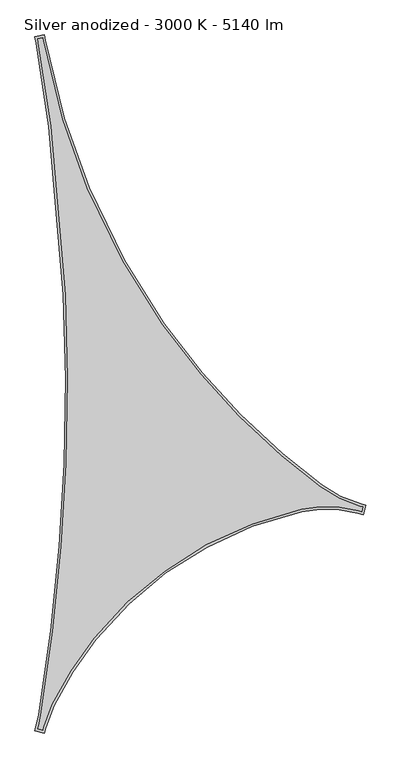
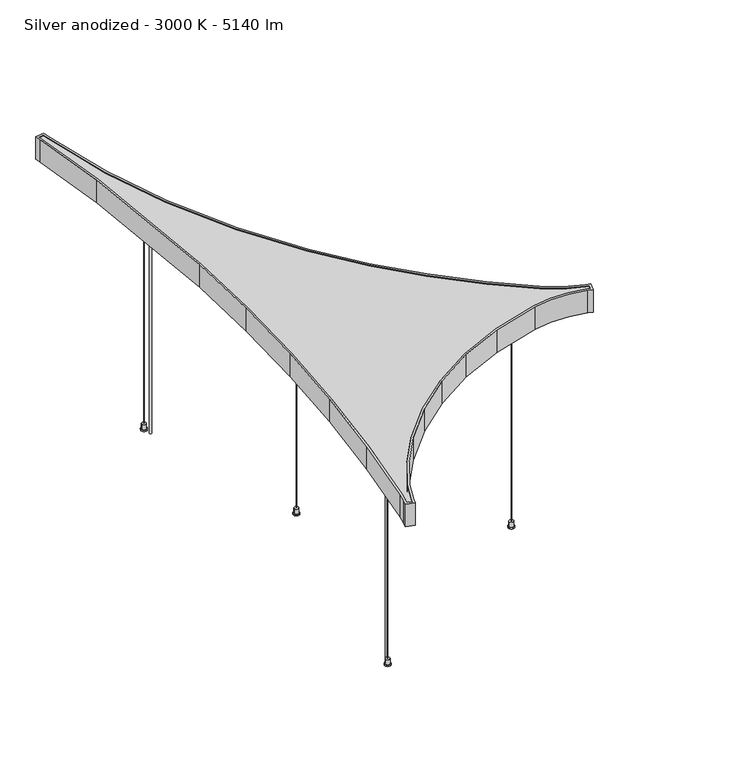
"""IFC4 building model written with IfcOpenShell, lengths in millimetres: light fixture geometry, KLUŚ - MIFOR - MI-SAIL-AR : Silver anodized - 3000 K - 5140 lm."""

from ifc_helpers import new_model, si_unit, point, frame, frame_2d, origin, origin_with_axes, origin_2d, place, context, project, spatial, polyline, circle_curve, trimmed, segment, composite_curve, outline, extrude, source, transform, mapped, element, save


def silver_anodized_3000_k_5140_lm_213de655(model_context):
    return source(origin(), model_context, "Body", "SweptSolid", [
        extrude(outline(composite_curve([segment(trimmed(circle_curve(frame_2d((-116.6391361, 406.611228)), 1.75), [point((-114.8891361, 406.611228))], [point((-118.3891361, 406.611228))], False, "CARTESIAN"), True, "CONTINUOUS"), segment(trimmed(circle_curve(frame_2d((-116.6391361, 406.611228)), 1.75), [point((-118.3891361, 406.611228))], [point((-114.8891361, 406.611228))], False, "CARTESIAN"), True, "CONTINUOUS")], self_intersect=False)), frame((0.0, 0.0, 500.5), z_axis=(0.0, 0.0, 1.0), x_axis=(1.0, 0.0, 0.0)), (0.0, 0.0, 1.0), 3.5),
        extrude(outline(composite_curve([segment(trimmed(circle_curve(frame_2d((-104.4303678, -544.9389265)), 1.75), [point((-102.6803678, -544.9389265))], [point((-106.1803678, -544.9389265))], False, "CARTESIAN"), True, "CONTINUOUS"), segment(trimmed(circle_curve(frame_2d((-104.4303678, -544.9389265)), 1.75), [point((-106.1803678, -544.9389265))], [point((-102.6803678, -544.9389265))], False, "CARTESIAN"), True, "CONTINUOUS")], self_intersect=False)), frame((0.0, 0.0, 500.5), z_axis=(0.0, 0.0, 1.0), x_axis=(1.0, 0.0, 0.0)), (0.0, 0.0, 1.0), 3.5),
        extrude(outline(composite_curve([segment(trimmed(circle_curve(frame_2d((348.7148662, -254.364743)), 1.75), [point((350.4648662, -254.364743))], [point((346.9648662, -254.364743))], False, "CARTESIAN"), True, "CONTINUOUS"), segment(trimmed(circle_curve(frame_2d((348.7148662, -254.364743)), 1.75), [point((346.9648662, -254.364743))], [point((350.4648662, -254.364743))], False, "CARTESIAN"), True, "CONTINUOUS")], self_intersect=False)), frame((0.0, 0.0, 500.5), z_axis=(0.0, 0.0, 1.0), x_axis=(1.0, 0.0, 0.0)), (0.0, 0.0, 1.0), 3.5),
        extrude(outline(composite_curve([segment(trimmed(circle_curve(origin_2d(), 1.75), [point((1.75, 0.0))], [point((-1.75, 0.0))], False, "CARTESIAN"), True, "CONTINUOUS"), segment(trimmed(circle_curve(origin_2d(), 1.75), [point((-1.75, 0.0))], [point((1.75, 0.0))], False, "CARTESIAN"), True, "CONTINUOUS")], self_intersect=False)), frame((0.0, 0.0, 500.5), z_axis=(0.0, 0.0, 1.0), x_axis=(1.0, 0.0, 0.0)), (0.0, 0.0, 1.0), 3.5),
        extrude(outline(composite_curve([segment(trimmed(circle_curve(frame_2d((-116.6391361, 406.611228)), 5.0), [point((-111.6391361, 406.611228))], [point((-121.6391361, 406.611228))], False, "CARTESIAN"), True, "CONTINUOUS"), segment(trimmed(circle_curve(frame_2d((-116.6391361, 406.611228)), 5.0), [point((-121.6391361, 406.611228))], [point((-111.6391361, 406.611228))], False, "CARTESIAN"), True, "CONTINUOUS")], self_intersect=False)), frame((0.0, 0.0, 3.0), z_axis=(0.0, 0.0, 1.0), x_axis=(1.0, 0.0, 0.0)), (0.0, 0.0, 1.0), 12.0),
        extrude(outline(composite_curve([segment(trimmed(circle_curve(frame_2d((348.7148662, -254.364743)), 5.0), [point((353.7148662, -254.364743))], [point((343.7148662, -254.364743))], False, "CARTESIAN"), True, "CONTINUOUS"), segment(trimmed(circle_curve(frame_2d((348.7148662, -254.364743)), 5.0), [point((343.7148662, -254.364743))], [point((353.7148662, -254.364743))], False, "CARTESIAN"), True, "CONTINUOUS")], self_intersect=False)), frame((0.0, 0.0, 3.0), z_axis=(0.0, 0.0, 1.0), x_axis=(1.0, 0.0, 0.0)), (0.0, 0.0, 1.0), 12.0),
        extrude(outline(composite_curve([segment(trimmed(circle_curve(frame_2d((-104.4303678, -544.9389265)), 5.0), [point((-99.4303678, -544.9389265))], [point((-109.4303678, -544.9389265))], False, "CARTESIAN"), True, "CONTINUOUS"), segment(trimmed(circle_curve(frame_2d((-104.4303678, -544.9389265)), 5.0), [point((-109.4303678, -544.9389265))], [point((-99.4303678, -544.9389265))], False, "CARTESIAN"), True, "CONTINUOUS")], self_intersect=False)), frame((0.0, 0.0, 3.0), z_axis=(0.0, 0.0, 1.0), x_axis=(1.0, 0.0, 0.0)), (0.0, 0.0, 1.0), 12.0),
        extrude(outline(composite_curve([segment(trimmed(circle_curve(origin_2d(), 5.0), [point((5.0, 0.0))], [point((-5.0, 0.0))], False, "CARTESIAN"), True, "CONTINUOUS"), segment(trimmed(circle_curve(origin_2d(), 5.0), [point((-5.0, 0.0))], [point((5.0, 0.0))], False, "CARTESIAN"), True, "CONTINUOUS")], self_intersect=False)), frame((0.0, 0.0, 3.0), z_axis=(0.0, 0.0, 1.0), x_axis=(1.0, 0.0, 0.0)), (0.0, 0.0, 1.0), 12.0),
        extrude(outline(composite_curve([segment(trimmed(circle_curve(frame_2d((-97.4497006, -528.564853)), 2.5), [point((-94.9497006, -528.564853))], [point((-99.9497006, -528.564853))], False, "CARTESIAN"), True, "CONTINUOUS"), segment(trimmed(circle_curve(frame_2d((-97.4497006, -528.564853)), 2.5), [point((-99.9497006, -528.564853))], [point((-94.9497006, -528.564853))], False, "CARTESIAN"), True, "CONTINUOUS")], self_intersect=False)), origin_with_axes(), (0.0, 0.0, 1.0), 516.0),
        extrude(outline(composite_curve([segment(trimmed(circle_curve(frame_2d((-111.3191471, 389.62483)), 2.5), [point((-108.8191471, 389.62483))], [point((-113.8191471, 389.62483))], False, "CARTESIAN"), True, "CONTINUOUS"), segment(trimmed(circle_curve(frame_2d((-111.3191471, 389.62483)), 2.5), [point((-113.8191471, 389.62483))], [point((-108.8191471, 389.62483))], False, "CARTESIAN"), True, "CONTINUOUS")], self_intersect=False)), origin_with_axes(), (0.0, 0.0, 1.0), 516.0),
        extrude(outline(composite_curve([segment(polyline([(-184.4935524, -762.1423197), (-182.8491772, -755.8537563)]), True, "CONTINUOUS"), segment(trimmed(circle_curve(frame_2d((-428.1031511, -691.7231218)), 253.5), [point((-182.8491772, -755.8537563))], [point((-178.0011557, -733.0902812))], True, "CARTESIAN"), True, "CONTINUOUS"), segment(trimmed(circle_curve(frame_2d((-4411.8137097, -32.8127858)), 4291.3351435), [point((-178.0011557, -733.0902812))], [point((-152.2801512, -554.2829932))], True, "CARTESIAN"), True, "CONTINUOUS"), segment(trimmed(circle_curve(frame_2d((-4411.8137093, -32.8127858)), 4291.3351431), [point((-152.2801512, -554.2829932))], [point((-134.0806189, -374.217117))], True, "CARTESIAN"), True, "CONTINUOUS"), segment(trimmed(circle_curve(frame_2d((-4411.8137093, -32.8127858)), 4291.3351431), [point((-134.0806189, -374.217117))], [point((-123.6645303, -198.142542))], True, "CARTESIAN"), True, "CONTINUOUS"), segment(trimmed(circle_curve(frame_2d((-4411.8137232, -32.8127853)), 4291.3351569), [point((-123.6645303, -198.142542))], [point((-120.5081438, -16.8800051))], True, "CARTESIAN"), True, "CONTINUOUS"), segment(trimmed(circle_curve(frame_2d((-4411.8137087, -32.8127858)), 4291.3351425), [point((-120.5081438, -16.8800051))], [point((-124.8746621, 161.3801995))], True, "CARTESIAN"), True, "CONTINUOUS"), segment(trimmed(circle_curve(frame_2d((-4411.8137103, -32.8127862)), 4291.3351441), [point((-124.8746621, 161.3801995))], [point((-156.1805007, 519.5849909))], True, "CARTESIAN"), True, "CONTINUOUS"), segment(trimmed(circle_curve(frame_2d((-4411.8137097, -32.8127862)), 4291.3351435), [point((-156.1805007, 519.5849909))], [point((-183.0877662, 697.5530184))], True, "CARTESIAN"), True, "CONTINUOUS"), segment(trimmed(circle_curve(frame_2d((-924.6407128, 569.4754552)), 752.5321487), [point((-183.0877662, 697.5530184))], [point((-184.6706799, 706.4023889))], True, "CARTESIAN"), True, "CONTINUOUS"), segment(polyline([(-184.6706799, 706.4023889), (-174.3639285, 708.2869528), (-173.1948028, 701.8929599)]), True, "CONTINUOUS"), segment(trimmed(circle_curve(frame_2d((1326.6594981, 976.137599)), 1524.7206453), [point((-173.1948028, 701.8929599))], [point((-132.844397, 534.9784142))], True, "CARTESIAN"), True, "CONTINUOUS"), segment(trimmed(circle_curve(frame_2d((1326.6594981, 976.137599)), 1524.7206453), [point((-132.844397, 534.9784142))], [point((-79.8387277, 387.4646959))], True, "CARTESIAN"), True, "CONTINUOUS"), segment(trimmed(circle_curve(frame_2d((1326.6594981, 976.137599)), 1524.7206453), [point((-79.8387277, 387.4646959))], [point((-5.0180603, 233.5691331))], True, "CARTESIAN"), True, "CONTINUOUS"), segment(trimmed(circle_curve(frame_2d((1326.6594981, 976.137599)), 1524.7206453), [point((-5.0180603, 233.5691331))], [point((80.7964993, 97.1618119))], True, "CARTESIAN"), True, "CONTINUOUS"), segment(trimmed(circle_curve(frame_2d((1326.6594981, 976.137599)), 1524.7206453), [point((80.7964993, 97.1618119))], [point((161.7649876, -7.6275282))], True, "CARTESIAN"), True, "CONTINUOUS"), segment(trimmed(circle_curve(frame_2d((1326.6594981, 976.137599)), 1524.7206453), [point((161.7649876, -7.6275282))], [point((243.0822195, -96.5381803))], True, "CARTESIAN"), True, "CONTINUOUS"), segment(trimmed(circle_curve(frame_2d((1326.6594981, 976.137599)), 1524.7206453), [point((243.0822195, -96.5381803))], [point((333.6881084, -180.9193855))], True, "CARTESIAN"), True, "CONTINUOUS"), segment(trimmed(circle_curve(frame_2d((1326.6594981, 976.137599)), 1524.7206453), [point((333.6881084, -180.9193855))], [point((416.6594913, -247.2482901))], True, "CARTESIAN"), True, "CONTINUOUS"), segment(trimmed(circle_curve(frame_2d((567.9560599, -43.8481959)), 253.5), [point((416.6594913, -247.2482901))], [point((500.6645441, -288.2538053))], True, "CARTESIAN"), True, "CONTINUOUS"), segment(polyline([(500.6645441, -288.2538053), (506.9313546, -289.9792288), (504.1441321, -300.1025381), (497.8773216, -298.3771146)]), True, "CONTINUOUS"), segment(trimmed(circle_curve(frame_2d((430.5858058, -542.782724)), 253.5), [point((497.8773216, -298.3771146))], [point((375.7997648, -295.273654))], True, "CARTESIAN"), True, "CONTINUOUS"), segment(trimmed(circle_curve(frame_2d((544.5105444, -1057.4650334)), 780.6401385), [point((375.7997648, -295.273654))], [point((270.1883912, -326.6118455))], True, "CARTESIAN"), True, "CONTINUOUS"), segment(trimmed(circle_curve(frame_2d((544.5105444, -1057.4650334)), 780.6401385), [point((270.1883912, -326.6118455))], [point((173.1016977, -370.8395936))], True, "CARTESIAN"), True, "CONTINUOUS"), segment(trimmed(circle_curve(frame_2d((544.5105444, -1057.4650334)), 780.6401385), [point((173.1016977, -370.8395936))], [point((85.0882438, -426.330994))], True, "CARTESIAN"), True, "CONTINUOUS"), segment(trimmed(circle_curve(frame_2d((544.5105444, -1057.4650334)), 780.6401385), [point((85.0882438, -426.330994))], [point((6.289823, -492.0293774))], True, "CARTESIAN"), True, "CONTINUOUS"), segment(trimmed(circle_curve(frame_2d((544.5105444, -1057.4650334)), 780.6401385), [point((6.289823, -492.0293774))], [point((-64.9369921, -569.6405504))], True, "CARTESIAN"), True, "CONTINUOUS"), segment(trimmed(circle_curve(frame_2d((544.5105444, -1057.4650334)), 780.6401385), [point((-64.9369921, -569.6405504))], [point((-114.289927, -638.6799276))], True, "CARTESIAN"), True, "CONTINUOUS"), segment(trimmed(circle_curve(frame_2d((544.5105444, -1057.4650334)), 780.6401385), [point((-114.289927, -638.6799276))], [point((-154.3946953, -709.7144161))], True, "CARTESIAN"), True, "CONTINUOUS"), segment(trimmed(circle_curve(frame_2d((72.5632454, -822.6406892)), 253.5), [point((-154.3946953, -709.7144161))], [point((-172.6907286, -758.5100547))], True, "CARTESIAN"), True, "CONTINUOUS"), segment(polyline([(-172.6907286, -758.5100547), (-174.3351038, -764.7986182), (-184.4935524, -762.1423197)]), True, "CONTINUOUS")], self_intersect=False)), frame((0.0, 0.0, 516.0), z_axis=(0.0, 0.0, 1.0), x_axis=(1.0, 0.0, 0.0)), (0.0, 0.0, 1.0), 2.0),
        extrude(outline(composite_curve([segment(polyline([(-184.4935524, -762.1423197), (-182.8491772, -755.8537563)]), True, "CONTINUOUS"), segment(trimmed(circle_curve(frame_2d((-428.1031511, -691.7231218)), 253.5), [point((-182.8491772, -755.8537563))], [point((-178.0011557, -733.0902812))], True, "CARTESIAN"), True, "CONTINUOUS"), segment(trimmed(circle_curve(frame_2d((-4411.8137097, -32.8127858)), 4291.3351435), [point((-178.0011557, -733.0902812))], [point((-152.2801512, -554.2829932))], True, "CARTESIAN"), True, "CONTINUOUS"), segment(trimmed(circle_curve(frame_2d((-4411.8137093, -32.8127858)), 4291.3351431), [point((-152.2801512, -554.2829932))], [point((-134.0806189, -374.217117))], True, "CARTESIAN"), True, "CONTINUOUS"), segment(trimmed(circle_curve(frame_2d((-4411.8137093, -32.8127858)), 4291.3351431), [point((-134.0806189, -374.217117))], [point((-123.6645303, -198.142542))], True, "CARTESIAN"), True, "CONTINUOUS"), segment(trimmed(circle_curve(frame_2d((-4411.8137232, -32.8127853)), 4291.3351569), [point((-123.6645303, -198.142542))], [point((-120.5081438, -16.8800051))], True, "CARTESIAN"), True, "CONTINUOUS"), segment(trimmed(circle_curve(frame_2d((-4411.8137087, -32.8127858)), 4291.3351425), [point((-120.5081438, -16.8800051))], [point((-124.8746621, 161.3801995))], True, "CARTESIAN"), True, "CONTINUOUS"), segment(trimmed(circle_curve(frame_2d((-4411.8137103, -32.8127862)), 4291.3351441), [point((-124.8746621, 161.3801995))], [point((-156.1805007, 519.5849909))], True, "CARTESIAN"), True, "CONTINUOUS"), segment(trimmed(circle_curve(frame_2d((-4411.8137097, -32.8127862)), 4291.3351435), [point((-156.1805007, 519.5849909))], [point((-183.0877662, 697.5530184))], True, "CARTESIAN"), True, "CONTINUOUS"), segment(trimmed(circle_curve(frame_2d((-924.6407128, 569.4754552)), 752.5321487), [point((-183.0877662, 697.5530184))], [point((-184.6706799, 706.4023889))], True, "CARTESIAN"), True, "CONTINUOUS"), segment(polyline([(-184.6706799, 706.4023889), (-174.3639285, 708.2869528), (-173.1948028, 701.8929599)]), True, "CONTINUOUS"), segment(trimmed(circle_curve(frame_2d((1326.6594981, 976.137599)), 1524.7206453), [point((-173.1948028, 701.8929599))], [point((-132.844397, 534.9784142))], True, "CARTESIAN"), True, "CONTINUOUS"), segment(trimmed(circle_curve(frame_2d((1326.6594981, 976.137599)), 1524.7206453), [point((-132.844397, 534.9784142))], [point((-79.8387277, 387.4646959))], True, "CARTESIAN"), True, "CONTINUOUS"), segment(trimmed(circle_curve(frame_2d((1326.6594981, 976.137599)), 1524.7206453), [point((-79.8387277, 387.4646959))], [point((-5.0180603, 233.5691331))], True, "CARTESIAN"), True, "CONTINUOUS"), segment(trimmed(circle_curve(frame_2d((1326.6594981, 976.137599)), 1524.7206453), [point((-5.0180603, 233.5691331))], [point((80.7964993, 97.1618119))], True, "CARTESIAN"), True, "CONTINUOUS"), segment(trimmed(circle_curve(frame_2d((1326.6594981, 976.137599)), 1524.7206453), [point((80.7964993, 97.1618119))], [point((161.7649876, -7.6275282))], True, "CARTESIAN"), True, "CONTINUOUS"), segment(trimmed(circle_curve(frame_2d((1326.6594981, 976.137599)), 1524.7206453), [point((161.7649876, -7.6275282))], [point((243.0822195, -96.5381803))], True, "CARTESIAN"), True, "CONTINUOUS"), segment(trimmed(circle_curve(frame_2d((1326.6594981, 976.137599)), 1524.7206453), [point((243.0822195, -96.5381803))], [point((333.6881084, -180.9193855))], True, "CARTESIAN"), True, "CONTINUOUS"), segment(trimmed(circle_curve(frame_2d((1326.6594981, 976.137599)), 1524.7206453), [point((333.6881084, -180.9193855))], [point((416.6594913, -247.2482901))], True, "CARTESIAN"), True, "CONTINUOUS"), segment(trimmed(circle_curve(frame_2d((567.9560599, -43.8481959)), 253.5), [point((416.6594913, -247.2482901))], [point((500.6645441, -288.2538053))], True, "CARTESIAN"), True, "CONTINUOUS"), segment(polyline([(500.6645441, -288.2538053), (506.9313546, -289.9792288), (504.1441321, -300.1025381), (497.8773216, -298.3771146)]), True, "CONTINUOUS"), segment(trimmed(circle_curve(frame_2d((430.5858058, -542.782724)), 253.5), [point((497.8773216, -298.3771146))], [point((375.7997648, -295.273654))], True, "CARTESIAN"), True, "CONTINUOUS"), segment(trimmed(circle_curve(frame_2d((544.5105444, -1057.4650334)), 780.6401385), [point((375.7997648, -295.273654))], [point((270.1883912, -326.6118455))], True, "CARTESIAN"), True, "CONTINUOUS"), segment(trimmed(circle_curve(frame_2d((544.5105444, -1057.4650334)), 780.6401385), [point((270.1883912, -326.6118455))], [point((173.1016977, -370.8395936))], True, "CARTESIAN"), True, "CONTINUOUS"), segment(trimmed(circle_curve(frame_2d((544.5105444, -1057.4650334)), 780.6401385), [point((173.1016977, -370.8395936))], [point((85.0882438, -426.330994))], True, "CARTESIAN"), True, "CONTINUOUS"), segment(trimmed(circle_curve(frame_2d((544.5105444, -1057.4650334)), 780.6401385), [point((85.0882438, -426.330994))], [point((6.289823, -492.0293774))], True, "CARTESIAN"), True, "CONTINUOUS"), segment(trimmed(circle_curve(frame_2d((544.5105444, -1057.4650334)), 780.6401385), [point((6.289823, -492.0293774))], [point((-64.9369921, -569.6405504))], True, "CARTESIAN"), True, "CONTINUOUS"), segment(trimmed(circle_curve(frame_2d((544.5105444, -1057.4650334)), 780.6401385), [point((-64.9369921, -569.6405504))], [point((-114.289927, -638.6799276))], True, "CARTESIAN"), True, "CONTINUOUS"), segment(trimmed(circle_curve(frame_2d((544.5105444, -1057.4650334)), 780.6401385), [point((-114.289927, -638.6799276))], [point((-154.3946953, -709.7144161))], True, "CARTESIAN"), True, "CONTINUOUS"), segment(trimmed(circle_curve(frame_2d((72.5632454, -822.6406892)), 253.5), [point((-154.3946953, -709.7144161))], [point((-172.6907286, -758.5100547))], True, "CARTESIAN"), True, "CONTINUOUS"), segment(polyline([(-172.6907286, -758.5100547), (-174.3351038, -764.7986182), (-184.4935524, -762.1423197)]), True, "CONTINUOUS")], self_intersect=False)), frame((0.0, 0.0, 551.0), z_axis=(0.0, 0.0, 1.0), x_axis=(1.0, 0.0, 0.0)), (0.0, 0.0, 1.0), 2.0),
        extrude(outline(composite_curve([segment(trimmed(circle_curve(frame_2d((1326.6594981, 976.137599)), 1519.7206453), [point((336.9443488, -177.125061))], [point((419.6436445, -243.236454))], True, "CARTESIAN"), True, "CONTINUOUS"), segment(trimmed(circle_curve(frame_2d((567.9560599, -43.8481959)), 248.5), [point((419.6436445, -243.236454))], [point((501.9917929, -283.4331819))], True, "CARTESIAN"), True, "CONTINUOUS"), segment(polyline([(501.9917929, -283.4331819), (513.0792269, -286.4858542), (507.6375067, -306.2504104), (496.5500727, -303.197738)]), True, "CONTINUOUS"), segment(trimmed(circle_curve(frame_2d((430.5858058, -542.782724)), 248.5), [point((496.5500727, -303.197738))], [point((376.8803573, -300.1554897))], True, "CARTESIAN"), True, "CONTINUOUS"), segment(trimmed(circle_curve(frame_2d((544.5105444, -1057.4650334)), 775.6401385), [point((376.8803573, -300.1554897))], [point((271.9454246, -331.2929601))], True, "CARTESIAN"), True, "CONTINUOUS"), segment(trimmed(circle_curve(frame_2d((544.5105444, -1057.4650334)), 775.6401385), [point((271.9454246, -331.2929601))], [point((175.4805713, -375.2374295))], True, "CARTESIAN"), True, "CONTINUOUS"), segment(trimmed(circle_curve(frame_2d((544.5105444, -1057.4650334)), 775.6401385), [point((175.4805713, -375.2374295))], [point((88.0308436, -430.3734075))], True, "CARTESIAN"), True, "CONTINUOUS"), segment(trimmed(circle_curve(frame_2d((544.5105444, -1057.4650334)), 775.6401385), [point((88.0308436, -430.3734075))], [point((9.7371267, -495.6509927))], True, "CARTESIAN"), True, "CONTINUOUS"), segment(trimmed(circle_curve(frame_2d((544.5105444, -1057.4650334)), 775.6401385), [point((9.7371267, -495.6509927))], [point((-61.0334807, -572.7650661))], True, "CARTESIAN"), True, "CONTINUOUS"), segment(trimmed(circle_curve(frame_2d((544.5105444, -1057.4650334)), 775.6401385), [point((-61.0334807, -572.7650661))], [point((-110.07031, -641.3622461))], True, "CARTESIAN"), True, "CONTINUOUS"), segment(trimmed(circle_curve(frame_2d((544.5105444, -1057.4650334)), 775.6401385), [point((-110.07031, -641.3622461))], [point((-149.9182074, -711.9417588))], True, "CARTESIAN"), True, "CONTINUOUS"), segment(trimmed(circle_curve(frame_2d((72.5632454, -822.6406892)), 248.5), [point((-149.9182074, -711.9417588))], [point((-167.8533721, -759.7749588))], True, "CARTESIAN"), True, "CONTINUOUS"), segment(polyline([(-167.8533721, -759.7749588), (-170.7626514, -770.9008787), (-190.595813, -765.7147722), (-187.6865337, -754.5888522)]), True, "CONTINUOUS"), segment(trimmed(circle_curve(frame_2d((-428.1031511, -691.7231218)), 248.5), [point((-187.6865337, -754.5888522))], [point((-182.9341339, -732.2743609))], True, "CARTESIAN"), True, "CONTINUOUS"), segment(trimmed(circle_curve(frame_2d((-4411.8137097, -32.8127858)), 4286.3351435), [point((-182.9341339, -732.2743609))], [point((-157.2380819, -553.6344337))], True, "CARTESIAN"), True, "CONTINUOUS"), segment(trimmed(circle_curve(frame_2d((-4411.8137093, -32.8127858)), 4286.3351431), [point((-157.2380819, -553.6344337))], [point((-139.0647707, -373.8193337))], True, "CARTESIAN"), True, "CONTINUOUS"), segment(trimmed(circle_curve(frame_2d((-4411.8137093, -32.8127858)), 4286.3351431), [point((-139.0647707, -373.8193337))], [point((-128.6551853, -197.8037461))], True, "CARTESIAN"), True, "CONTINUOUS"), segment(trimmed(circle_curve(frame_2d((-4411.8137232, -32.8127853)), 4286.3351569), [point((-128.6551853, -197.8037461))], [point((-125.5081281, -16.893508))], True, "CARTESIAN"), True, "CONTINUOUS"), segment(trimmed(circle_curve(frame_2d((-4411.8137087, -32.8127858)), 4286.3351425), [point((-125.5081281, -16.893508))], [point((-129.8694721, 161.1524388))], True, "CARTESIAN"), True, "CONTINUOUS"), segment(trimmed(circle_curve(frame_2d((-4411.8137103, -32.8127862)), 4286.3351441), [point((-129.8694721, 161.1524388))], [point((-161.1022373, 518.6588272))], True, "CARTESIAN"), True, "CONTINUOUS"), segment(trimmed(circle_curve(frame_2d((-4411.8137097, -32.8127862)), 4286.3351435), [point((-161.1022373, 518.6588272))], [point((-188.0148178, 696.702041))], True, "CARTESIAN"), True, "CONTINUOUS"), segment(trimmed(circle_curve(frame_2d((-924.6407128, 569.4754552)), 747.5321487), [point((-188.0148178, 696.702041))], [point((-190.5154432, 710.4165842))], True, "CARTESIAN"), True, "CONTINUOUS"), segment(polyline([(-190.5154432, 710.4165842), (-170.3448, 714.1047363), (-168.2763467, 702.7922874)]), True, "CONTINUOUS"), segment(trimmed(circle_curve(frame_2d((1326.6594981, 976.137599)), 1519.7206453), [point((-168.2763467, 702.7922874))], [point((-128.0582616, 536.4251028))], True, "CARTESIAN"), True, "CONTINUOUS"), segment(trimmed(circle_curve(frame_2d((1326.6594981, 976.137599)), 1519.7206453), [point((-128.0582616, 536.4251028))], [point((-75.2264132, 389.3951246))], True, "CARTESIAN"), True, "CONTINUOUS"), segment(trimmed(circle_curve(frame_2d((1326.6594981, 976.137599)), 1519.7206453), [point((-75.2264132, 389.3951246))], [point((-0.6511044, 236.0042299))], True, "CARTESIAN"), True, "CONTINUOUS"), segment(trimmed(circle_curve(frame_2d((1326.6594981, 976.137599)), 1519.7206453), [point((-0.6511044, 236.0042299))], [point((84.8820444, 100.0442277))], True, "CARTESIAN"), True, "CONTINUOUS"), segment(trimmed(circle_curve(frame_2d((1326.6594981, 976.137599)), 1519.7206453), [point((84.8820444, 100.0442277))], [point((165.5850136, -4.4014778))], True, "CARTESIAN"), True, "CONTINUOUS"), segment(trimmed(circle_curve(frame_2d((1326.6594981, 976.137599)), 1519.7206453), [point((165.5850136, -4.4014778))], [point((246.6355828, -93.0205662))], True, "CARTESIAN"), True, "CONTINUOUS"), segment(trimmed(circle_curve(frame_2d((1326.6594981, 976.137599)), 1519.7206453), [point((246.6355828, -93.0205662))], [point((336.9443488, -177.125061))], True, "CARTESIAN"), True, "CONTINUOUS")], self_intersect=False), holes=[composite_curve([segment(polyline([(-184.4935524, -762.1423197), (-174.3351038, -764.7986182), (-172.6907286, -758.5100547)]), True, "CONTINUOUS"), segment(trimmed(circle_curve(frame_2d((72.5632454, -822.6406892)), 253.5), [point((-172.6907286, -758.5100547))], [point((-154.3946953, -709.7144161))], False, "CARTESIAN"), True, "CONTINUOUS"), segment(trimmed(circle_curve(frame_2d((544.5105444, -1057.4650334)), 780.6401385), [point((-154.3946953, -709.7144161))], [point((-114.289927, -638.6799276))], False, "CARTESIAN"), True, "CONTINUOUS"), segment(trimmed(circle_curve(frame_2d((544.5105444, -1057.4650334)), 780.6401385), [point((-114.289927, -638.6799276))], [point((-64.9369921, -569.6405504))], False, "CARTESIAN"), True, "CONTINUOUS"), segment(trimmed(circle_curve(frame_2d((544.5105444, -1057.4650334)), 780.6401385), [point((-64.9369921, -569.6405504))], [point((6.289823, -492.0293774))], False, "CARTESIAN"), True, "CONTINUOUS"), segment(trimmed(circle_curve(frame_2d((544.5105444, -1057.4650334)), 780.6401385), [point((6.289823, -492.0293774))], [point((85.0882438, -426.330994))], False, "CARTESIAN"), True, "CONTINUOUS"), segment(trimmed(circle_curve(frame_2d((544.5105444, -1057.4650334)), 780.6401385), [point((85.0882438, -426.330994))], [point((173.1016977, -370.8395936))], False, "CARTESIAN"), True, "CONTINUOUS"), segment(trimmed(circle_curve(frame_2d((544.5105444, -1057.4650334)), 780.6401385), [point((173.1016977, -370.8395936))], [point((270.1883912, -326.6118455))], False, "CARTESIAN"), True, "CONTINUOUS"), segment(trimmed(circle_curve(frame_2d((544.5105444, -1057.4650334)), 780.6401385), [point((270.1883912, -326.6118455))], [point((375.7997648, -295.273654))], False, "CARTESIAN"), True, "CONTINUOUS"), segment(trimmed(circle_curve(frame_2d((430.5858058, -542.782724)), 253.5), [point((375.7997648, -295.273654))], [point((497.8773216, -298.3771146))], False, "CARTESIAN"), True, "CONTINUOUS"), segment(polyline([(497.8773216, -298.3771146), (504.1441321, -300.1025381), (506.9313546, -289.9792288), (500.6645441, -288.2538053)]), True, "CONTINUOUS"), segment(trimmed(circle_curve(frame_2d((567.9560599, -43.8481959)), 253.5), [point((500.6645441, -288.2538053))], [point((416.6594913, -247.2482901))], False, "CARTESIAN"), True, "CONTINUOUS"), segment(trimmed(circle_curve(frame_2d((1326.6594981, 976.137599)), 1524.7206453), [point((416.6594913, -247.2482901))], [point((333.6881084, -180.9193855))], False, "CARTESIAN"), True, "CONTINUOUS"), segment(trimmed(circle_curve(frame_2d((1326.6594981, 976.137599)), 1524.7206453), [point((333.6881084, -180.9193855))], [point((243.0822195, -96.5381803))], False, "CARTESIAN"), True, "CONTINUOUS"), segment(trimmed(circle_curve(frame_2d((1326.6594981, 976.137599)), 1524.7206453), [point((243.0822195, -96.5381803))], [point((161.7649876, -7.6275282))], False, "CARTESIAN"), True, "CONTINUOUS"), segment(trimmed(circle_curve(frame_2d((1326.6594981, 976.137599)), 1524.7206453), [point((161.7649876, -7.6275282))], [point((80.7964993, 97.1618119))], False, "CARTESIAN"), True, "CONTINUOUS"), segment(trimmed(circle_curve(frame_2d((1326.6594981, 976.137599)), 1524.7206453), [point((80.7964993, 97.1618119))], [point((-5.0180603, 233.5691331))], False, "CARTESIAN"), True, "CONTINUOUS"), segment(trimmed(circle_curve(frame_2d((1326.6594981, 976.137599)), 1524.7206453), [point((-5.0180603, 233.5691331))], [point((-79.8387277, 387.4646959))], False, "CARTESIAN"), True, "CONTINUOUS"), segment(trimmed(circle_curve(frame_2d((1326.6594981, 976.137599)), 1524.7206453), [point((-79.8387277, 387.4646959))], [point((-132.844397, 534.9784142))], False, "CARTESIAN"), True, "CONTINUOUS"), segment(trimmed(circle_curve(frame_2d((1326.6594981, 976.137599)), 1524.7206453), [point((-132.844397, 534.9784142))], [point((-173.1948028, 701.8929599))], False, "CARTESIAN"), True, "CONTINUOUS"), segment(polyline([(-173.1948028, 701.8929599), (-174.3639285, 708.2869528), (-184.6706799, 706.4023889)]), True, "CONTINUOUS"), segment(trimmed(circle_curve(frame_2d((-924.6407128, 569.4754552)), 752.5321487), [point((-184.6706799, 706.4023889))], [point((-183.0877662, 697.5530184))], False, "CARTESIAN"), True, "CONTINUOUS"), segment(trimmed(circle_curve(frame_2d((-4411.8137097, -32.8127862)), 4291.3351435), [point((-183.0877662, 697.5530184))], [point((-156.1805007, 519.5849909))], False, "CARTESIAN"), True, "CONTINUOUS"), segment(trimmed(circle_curve(frame_2d((-4411.8137103, -32.8127862)), 4291.3351441), [point((-156.1805007, 519.5849909))], [point((-124.8746621, 161.3801995))], False, "CARTESIAN"), True, "CONTINUOUS"), segment(trimmed(circle_curve(frame_2d((-4411.8137087, -32.8127858)), 4291.3351425), [point((-124.8746621, 161.3801995))], [point((-120.5081586, -16.8760247))], False, "CARTESIAN"), True, "CONTINUOUS"), segment(trimmed(circle_curve(frame_2d((-4411.8137232, -32.8127853)), 4291.3351569), [point((-120.5081586, -16.8760247))], [point((-123.6645303, -198.142542))], False, "CARTESIAN"), True, "CONTINUOUS"), segment(trimmed(circle_curve(frame_2d((-4411.8137093, -32.8127858)), 4291.3351431), [point((-123.6645303, -198.142542))], [point((-134.0806189, -374.217117))], False, "CARTESIAN"), True, "CONTINUOUS"), segment(trimmed(circle_curve(frame_2d((-4411.8137093, -32.8127858)), 4291.3351431), [point((-134.0806189, -374.217117))], [point((-152.2743706, -554.2357733))], False, "CARTESIAN"), True, "CONTINUOUS"), segment(trimmed(circle_curve(frame_2d((-4411.8137097, -32.8127858)), 4291.3351435), [point((-152.2743706, -554.2357733))], [point((-178.0011557, -733.0902812))], False, "CARTESIAN"), True, "CONTINUOUS"), segment(trimmed(circle_curve(frame_2d((-428.1031511, -691.7231218)), 253.5), [point((-178.0011557, -733.0902812))], [point((-182.8491772, -755.8537563))], False, "CARTESIAN"), True, "CONTINUOUS"), segment(polyline([(-182.8491772, -755.8537563), (-184.4935524, -762.1423197)]), True, "CONTINUOUS")], self_intersect=False)]), frame((0.0, 0.0, 500.0), z_axis=(0.0, 0.0, 1.0), x_axis=(1.0, 0.0, 0.0)), (0.0, 0.0, 1.0), 55.0),
        extrude(outline(composite_curve([segment(trimmed(circle_curve(frame_2d((-116.6391361, 406.611228)), 0.5), [point((-116.1391361, 406.611228))], [point((-117.1391361, 406.611228))], False, "CARTESIAN"), True, "CONTINUOUS"), segment(trimmed(circle_curve(frame_2d((-116.6391361, 406.611228)), 0.5), [point((-117.1391361, 406.611228))], [point((-116.1391361, 406.611228))], False, "CARTESIAN"), True, "CONTINUOUS")], self_intersect=False)), frame((0.0, 0.0, 15.0), z_axis=(0.0, 0.0, 1.0), x_axis=(1.0, 0.0, 0.0)), (0.0, 0.0, 1.0), 485.5),
        extrude(outline(composite_curve([segment(trimmed(circle_curve(frame_2d((-104.4303678, -544.9389265)), 0.5), [point((-103.9303678, -544.9389265))], [point((-104.9303678, -544.9389265))], False, "CARTESIAN"), True, "CONTINUOUS"), segment(trimmed(circle_curve(frame_2d((-104.4303678, -544.9389265)), 0.5), [point((-104.9303678, -544.9389265))], [point((-103.9303678, -544.9389265))], False, "CARTESIAN"), True, "CONTINUOUS")], self_intersect=False)), frame((0.0, 0.0, 15.0), z_axis=(0.0, 0.0, 1.0), x_axis=(1.0, 0.0, 0.0)), (0.0, 0.0, 1.0), 485.5),
        extrude(outline(composite_curve([segment(trimmed(circle_curve(frame_2d((348.7148662, -254.364743)), 0.5), [point((349.2148662, -254.364743))], [point((348.2148662, -254.364743))], False, "CARTESIAN"), True, "CONTINUOUS"), segment(trimmed(circle_curve(frame_2d((348.7148662, -254.364743)), 0.5), [point((348.2148662, -254.364743))], [point((349.2148662, -254.364743))], False, "CARTESIAN"), True, "CONTINUOUS")], self_intersect=False)), frame((0.0, 0.0, 15.0), z_axis=(0.0, 0.0, 1.0), x_axis=(1.0, 0.0, 0.0)), (0.0, 0.0, 1.0), 485.5),
        extrude(outline(composite_curve([segment(trimmed(circle_curve(origin_2d(), 0.5), [point((0.5, 0.0))], [point((-0.5, 0.0))], False, "CARTESIAN"), True, "CONTINUOUS"), segment(trimmed(circle_curve(origin_2d(), 0.5), [point((-0.5, 0.0))], [point((0.5, 0.0))], False, "CARTESIAN"), True, "CONTINUOUS")], self_intersect=False)), frame((0.0, 0.0, 15.0), z_axis=(0.0, 0.0, 1.0), x_axis=(1.0, 0.0, 0.0)), (0.0, 0.0, 1.0), 485.5),
        extrude(outline(composite_curve([segment(trimmed(circle_curve(frame_2d((348.7148662, -254.364743)), 4.0), [point((352.7148662, -254.364743))], [point((344.7148662, -254.364743))], False, "CARTESIAN"), True, "CONTINUOUS"), segment(trimmed(circle_curve(frame_2d((348.7148662, -254.364743)), 4.0), [point((344.7148662, -254.364743))], [point((352.7148662, -254.364743))], False, "CARTESIAN"), True, "CONTINUOUS")], self_intersect=False)), frame((0.0, 0.0, 504.0), z_axis=(0.0, 0.0, 1.0), x_axis=(1.0, 0.0, 0.0)), (0.0, 0.0, 1.0), 12.0),
        extrude(outline(composite_curve([segment(trimmed(circle_curve(frame_2d((-104.4303678, -544.9389265)), 4.0), [point((-100.4303678, -544.9389265))], [point((-108.4303678, -544.9389265))], False, "CARTESIAN"), True, "CONTINUOUS"), segment(trimmed(circle_curve(frame_2d((-104.4303678, -544.9389265)), 4.0), [point((-108.4303678, -544.9389265))], [point((-100.4303678, -544.9389265))], False, "CARTESIAN"), True, "CONTINUOUS")], self_intersect=False)), frame((0.0, 0.0, 504.0), z_axis=(0.0, 0.0, 1.0), x_axis=(1.0, 0.0, 0.0)), (0.0, 0.0, 1.0), 12.0),
        extrude(outline(composite_curve([segment(trimmed(circle_curve(frame_2d((-116.6391361, 406.611228)), 4.0), [point((-112.6391361, 406.611228))], [point((-120.6391361, 406.611228))], False, "CARTESIAN"), True, "CONTINUOUS"), segment(trimmed(circle_curve(frame_2d((-116.6391361, 406.611228)), 4.0), [point((-120.6391361, 406.611228))], [point((-112.6391361, 406.611228))], False, "CARTESIAN"), True, "CONTINUOUS")], self_intersect=False)), frame((0.0, 0.0, 504.0), z_axis=(0.0, 0.0, 1.0), x_axis=(1.0, 0.0, 0.0)), (0.0, 0.0, 1.0), 12.0),
        extrude(outline(composite_curve([segment(trimmed(circle_curve(origin_2d(), 4.0), [point((4.0, 0.0))], [point((-4.0, 0.0))], False, "CARTESIAN"), True, "CONTINUOUS"), segment(trimmed(circle_curve(origin_2d(), 4.0), [point((-4.0, 0.0))], [point((4.0, 0.0))], False, "CARTESIAN"), True, "CONTINUOUS")], self_intersect=False)), frame((0.0, 0.0, 504.0), z_axis=(0.0, 0.0, 1.0), x_axis=(1.0, 0.0, 0.0)), (0.0, 0.0, 1.0), 12.0),
        extrude(outline(composite_curve([segment(trimmed(circle_curve(frame_2d((-116.6391361, 406.611228)), 7.0), [point((-109.6391361, 406.611228))], [point((-123.6391361, 406.611228))], False, "CARTESIAN"), True, "CONTINUOUS"), segment(trimmed(circle_curve(frame_2d((-116.6391361, 406.611228)), 7.0), [point((-123.6391361, 406.611228))], [point((-109.6391361, 406.611228))], False, "CARTESIAN"), True, "CONTINUOUS")], self_intersect=False)), origin_with_axes(), (0.0, 0.0, 1.0), 3.0),
        extrude(outline(composite_curve([segment(trimmed(circle_curve(frame_2d((-104.4303678, -544.9389265)), 7.0), [point((-97.4303678, -544.9389265))], [point((-111.4303678, -544.9389265))], False, "CARTESIAN"), True, "CONTINUOUS"), segment(trimmed(circle_curve(frame_2d((-104.4303678, -544.9389265)), 7.0), [point((-111.4303678, -544.9389265))], [point((-97.4303678, -544.9389265))], False, "CARTESIAN"), True, "CONTINUOUS")], self_intersect=False)), origin_with_axes(), (0.0, 0.0, 1.0), 3.0),
        extrude(outline(composite_curve([segment(trimmed(circle_curve(frame_2d((348.7148662, -254.364743)), 7.0), [point((355.7148662, -254.364743))], [point((341.7148662, -254.364743))], False, "CARTESIAN"), True, "CONTINUOUS"), segment(trimmed(circle_curve(frame_2d((348.7148662, -254.364743)), 7.0), [point((341.7148662, -254.364743))], [point((355.7148662, -254.364743))], False, "CARTESIAN"), True, "CONTINUOUS")], self_intersect=False)), origin_with_axes(), (0.0, 0.0, 1.0), 3.0),
        extrude(outline(composite_curve([segment(trimmed(circle_curve(origin_2d(), 7.0), [point((7.0, 0.0))], [point((-7.0, 0.0))], False, "CARTESIAN"), True, "CONTINUOUS"), segment(trimmed(circle_curve(origin_2d(), 7.0), [point((-7.0, 0.0))], [point((7.0, 0.0))], False, "CARTESIAN"), True, "CONTINUOUS")], self_intersect=False)), origin_with_axes(), (0.0, 0.0, 1.0), 3.0),
    ])


if __name__ == "__main__":
    model = new_model("IFC4")
    model_context = context("Model", 3, world=origin())
    ifc_project = project(units=[si_unit("LENGTHUNIT", "METRE", prefix="MILLI")], contexts=[model_context])
    site = spatial("IfcSite", under=ifc_project)
    building = spatial("IfcBuilding", under=site)
    placement = place(None, origin())
    silver_anodized_3000_k_5140_lm_shape = silver_anodized_3000_k_5140_lm_213de655(model_context)
    element("IfcLightFixture", 1, ObjectType="KLUŚ - MIFOR - MI-SAIL-AR : Silver anodized - 3000 K - 5140 lm", at=placement, inside=building, context=model_context, shape_type="MappedRepresentation", body=[
        mapped(silver_anodized_3000_k_5140_lm_shape, transform((0.0, 0.0, 0.0), x_axis=(1.0, 0.0, 0.0), y_axis=(0.0, 1.0, 0.0), z_axis=(0.0, 0.0, 1.0))),
    ])
    save(model, "model.ifc")
